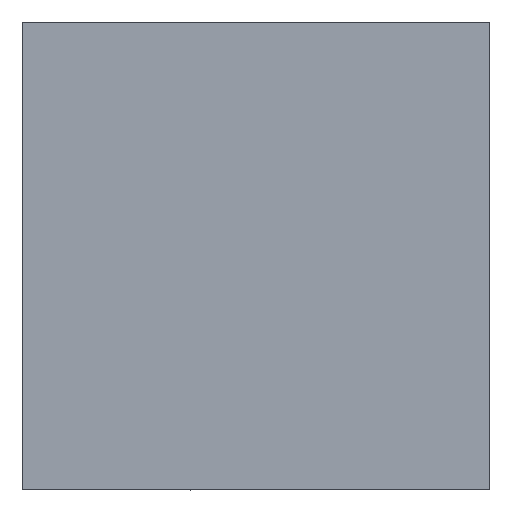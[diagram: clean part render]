
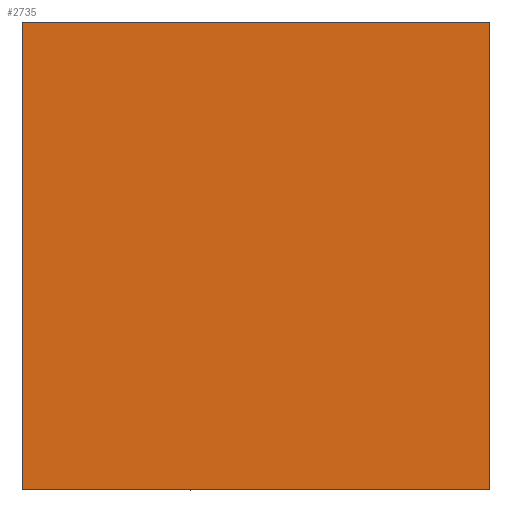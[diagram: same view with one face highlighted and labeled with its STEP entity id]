
A CAD part, left-side view. The second image highlights one B-rep face of the part: STEP entity #2735.
In plain terms, the highlighted planar face has unit normal (-1, 0, 0).
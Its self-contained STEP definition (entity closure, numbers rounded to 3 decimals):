
#91 = VERTEX_POINT ( 'NONE', #3158 ) ;
#219 = CARTESIAN_POINT ( 'NONE',  ( -162.679, 50., 0. ) ) ;
#364 = EDGE_CURVE ( 'NONE', #91, #2423, #3768, .T. ) ;
#405 = VECTOR ( 'NONE', #1510, 1000. ) ;
#624 = CARTESIAN_POINT ( 'NONE',  ( -162.679, 0., 50. ) ) ;
#702 = ORIENTED_EDGE ( 'NONE', *, *, #1983, .T. ) ;
#1299 = ORIENTED_EDGE ( 'NONE', *, *, #3573, .T. ) ;
#1406 = LINE ( 'NONE', #1753, #2106 ) ;
#1510 = DIRECTION ( 'NONE',  ( 0., 1., 0. ) ) ;
#1525 = VERTEX_POINT ( 'NONE', #1995 ) ;
#1709 = DIRECTION ( 'NONE',  ( 0., 0., 1. ) ) ;
#1753 = CARTESIAN_POINT ( 'NONE',  ( -162.679, 0., 0. ) ) ;
#1983 = EDGE_CURVE ( 'NONE', #1525, #91, #3341, .T. ) ;
#1995 = CARTESIAN_POINT ( 'NONE',  ( -162.679, 0., 0. ) ) ;
#2106 = VECTOR ( 'NONE', #2986, 1000. ) ;
#2218 = ORIENTED_EDGE ( 'NONE', *, *, #364, .T. ) ;
#2299 = FACE_OUTER_BOUND ( 'NONE', #4542, .T. ) ;
#2423 = VERTEX_POINT ( 'NONE', #3298 ) ;
#2643 = DIRECTION ( 'NONE',  ( 0., 0., 1. ) ) ;
#2682 = VECTOR ( 'NONE', #2991, 1000. ) ;
#2735 = ADVANCED_FACE ( 'NONE', ( #2299 ), #3913, .T. ) ;
#2911 = ORIENTED_EDGE ( 'NONE', *, *, #4631, .T. ) ;
#2986 = DIRECTION ( 'NONE',  ( 0., -1., 0. ) ) ;
#2991 = DIRECTION ( 'NONE',  ( 0., 0., -1. ) ) ;
#3158 = CARTESIAN_POINT ( 'NONE',  ( -162.679, 0., 50. ) ) ;
#3289 = DIRECTION ( 'NONE',  ( -1., 0., 0. ) ) ;
#3298 = CARTESIAN_POINT ( 'NONE',  ( -162.679, 50., 50. ) ) ;
#3341 = LINE ( 'NONE', #624, #3907 ) ;
#3573 = EDGE_CURVE ( 'NONE', #2423, #4092, #3751, .T. ) ;
#3607 = CARTESIAN_POINT ( 'NONE',  ( -162.679, 50., 0. ) ) ;
#3724 = AXIS2_PLACEMENT_3D ( 'NONE', #4328, #3289, #1709 ) ;
#3751 = LINE ( 'NONE', #219, #2682 ) ;
#3768 = LINE ( 'NONE', #4604, #405 ) ;
#3907 = VECTOR ( 'NONE', #2643, 1000. ) ;
#3913 = PLANE ( 'NONE',  #3724 ) ;
#4092 = VERTEX_POINT ( 'NONE', #3607 ) ;
#4328 = CARTESIAN_POINT ( 'NONE',  ( -162.679, 25., 25. ) ) ;
#4542 = EDGE_LOOP ( 'NONE', ( #2218, #1299, #2911, #702 ) ) ;
#4604 = CARTESIAN_POINT ( 'NONE',  ( -162.679, 50., 50. ) ) ;
#4631 = EDGE_CURVE ( 'NONE', #4092, #1525, #1406, .T. ) ;
